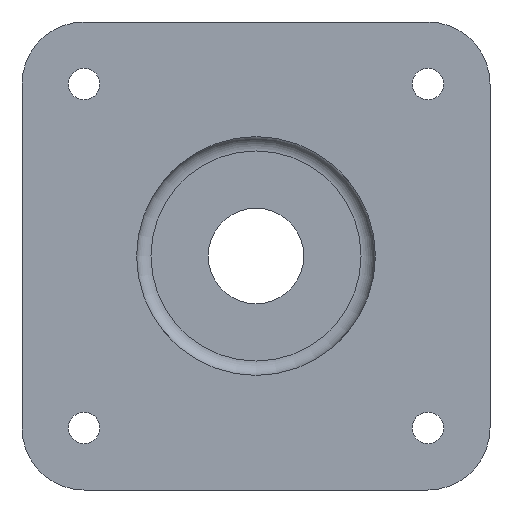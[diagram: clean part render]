
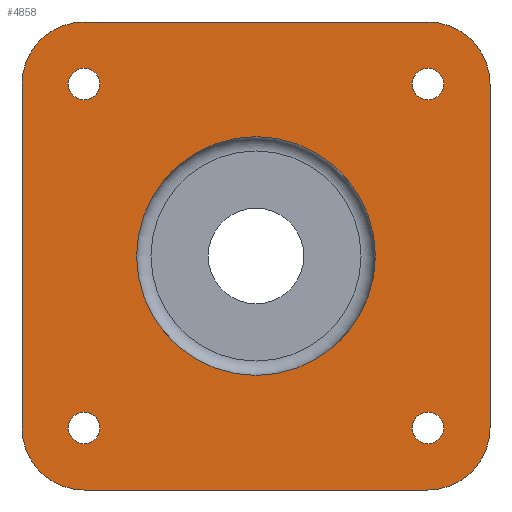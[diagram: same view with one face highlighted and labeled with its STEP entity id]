
A CAD part, front view. The second image highlights one B-rep face of the part: STEP entity #4858.
In plain terms, the highlighted planar face has unit normal (0, -1, 0).
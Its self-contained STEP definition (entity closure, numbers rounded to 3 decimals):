
#87=FACE_BOUND('',#884,.T.);
#88=FACE_BOUND('',#885,.T.);
#89=FACE_BOUND('',#886,.T.);
#90=FACE_BOUND('',#887,.T.);
#91=FACE_BOUND('',#888,.T.);
#286=PLANE('',#5271);
#561=FACE_OUTER_BOUND('',#883,.T.);
#883=EDGE_LOOP('',(#4516,#4517,#4518,#4519,#4520,#4521,#4522,#4523));
#884=EDGE_LOOP('',(#4524));
#885=EDGE_LOOP('',(#4525));
#886=EDGE_LOOP('',(#4526));
#887=EDGE_LOOP('',(#4527));
#888=EDGE_LOOP('',(#4528));
#1352=LINE('',#9833,#1677);
#1356=LINE('',#9842,#1681);
#1394=LINE('',#10151,#1719);
#1396=LINE('',#10157,#1721);
#1677=VECTOR('',#6108,10.);
#1681=VECTOR('',#6118,10.);
#1719=VECTOR('',#6356,10.);
#1721=VECTOR('',#6364,10.);
#1866=CIRCLE('',#5160,13.);
#1867=CIRCLE('',#5163,13.);
#1904=CIRCLE('',#5232,25.);
#1909=CIRCLE('',#5240,3.3);
#1912=CIRCLE('',#5246,3.3);
#1915=CIRCLE('',#5252,3.3);
#1918=CIRCLE('',#5258,3.3);
#1919=CIRCLE('',#5260,13.);
#1920=CIRCLE('',#5263,13.);
#2328=VERTEX_POINT('',#9830);
#2329=VERTEX_POINT('',#9832);
#2330=VERTEX_POINT('',#9836);
#2331=VERTEX_POINT('',#9840);
#2332=VERTEX_POINT('',#9844);
#2380=VERTEX_POINT('',#10092);
#2385=VERTEX_POINT('',#10108);
#2388=VERTEX_POINT('',#10119);
#2391=VERTEX_POINT('',#10130);
#2394=VERTEX_POINT('',#10141);
#2395=VERTEX_POINT('',#10145);
#2396=VERTEX_POINT('',#10149);
#2397=VERTEX_POINT('',#10153);
#3001=EDGE_CURVE('',#2329,#2328,#1352,.T.);
#3004=EDGE_CURVE('',#2330,#2328,#1866,.T.);
#3006=EDGE_CURVE('',#2330,#2331,#1356,.T.);
#3008=EDGE_CURVE('',#2332,#2331,#1867,.T.);
#3074=EDGE_CURVE('',#2380,#2380,#1904,.T.);
#3083=EDGE_CURVE('',#2385,#2385,#1909,.T.);
#3088=EDGE_CURVE('',#2388,#2388,#1912,.T.);
#3093=EDGE_CURVE('',#2391,#2391,#1915,.T.);
#3098=EDGE_CURVE('',#2394,#2394,#1918,.T.);
#3099=EDGE_CURVE('',#2329,#2395,#1919,.T.);
#3102=EDGE_CURVE('',#2332,#2396,#1394,.T.);
#3104=EDGE_CURVE('',#2397,#2396,#1920,.T.);
#3105=EDGE_CURVE('',#2397,#2395,#1396,.T.);
#4516=ORIENTED_EDGE('',*,*,#3099,.F.);
#4517=ORIENTED_EDGE('',*,*,#3001,.T.);
#4518=ORIENTED_EDGE('',*,*,#3004,.F.);
#4519=ORIENTED_EDGE('',*,*,#3006,.T.);
#4520=ORIENTED_EDGE('',*,*,#3008,.F.);
#4521=ORIENTED_EDGE('',*,*,#3102,.T.);
#4522=ORIENTED_EDGE('',*,*,#3104,.F.);
#4523=ORIENTED_EDGE('',*,*,#3105,.T.);
#4524=ORIENTED_EDGE('',*,*,#3083,.T.);
#4525=ORIENTED_EDGE('',*,*,#3088,.T.);
#4526=ORIENTED_EDGE('',*,*,#3093,.T.);
#4527=ORIENTED_EDGE('',*,*,#3098,.T.);
#4528=ORIENTED_EDGE('',*,*,#3074,.T.);
#4858=ADVANCED_FACE('',(#561,#87,#88,#89,#90,#91),#286,.F.);
#5160=AXIS2_PLACEMENT_3D('',#9838,#6113,#6114);
#5163=AXIS2_PLACEMENT_3D('',#9846,#6122,#6123);
#5232=AXIS2_PLACEMENT_3D('',#10093,#6284,#6285);
#5240=AXIS2_PLACEMENT_3D('',#10110,#6304,#6305);
#5246=AXIS2_PLACEMENT_3D('',#10121,#6318,#6319);
#5252=AXIS2_PLACEMENT_3D('',#10132,#6332,#6333);
#5258=AXIS2_PLACEMENT_3D('',#10143,#6346,#6347);
#5260=AXIS2_PLACEMENT_3D('',#10146,#6350,#6351);
#5263=AXIS2_PLACEMENT_3D('',#10155,#6360,#6361);
#5271=AXIS2_PLACEMENT_3D('',#10165,#6377,#6378);
#6108=DIRECTION('',(1.,0.,0.));
#6113=DIRECTION('center_axis',(0.,1.,0.));
#6114=DIRECTION('ref_axis',(0.707,0.,-0.707));
#6118=DIRECTION('',(0.,0.,1.));
#6122=DIRECTION('center_axis',(0.,1.,0.));
#6123=DIRECTION('ref_axis',(0.707,0.,0.707));
#6284=DIRECTION('center_axis',(0.,1.,0.));
#6285=DIRECTION('ref_axis',(-1.,0.,0.));
#6304=DIRECTION('center_axis',(0.,1.,0.));
#6305=DIRECTION('ref_axis',(1.,0.,0.));
#6318=DIRECTION('center_axis',(0.,1.,0.));
#6319=DIRECTION('ref_axis',(1.,0.,0.));
#6332=DIRECTION('center_axis',(0.,1.,0.));
#6333=DIRECTION('ref_axis',(1.,0.,0.));
#6346=DIRECTION('center_axis',(0.,1.,0.));
#6347=DIRECTION('ref_axis',(1.,0.,0.));
#6350=DIRECTION('center_axis',(0.,1.,0.));
#6351=DIRECTION('ref_axis',(-0.707,0.,-0.707));
#6356=DIRECTION('',(-1.,0.,0.));
#6360=DIRECTION('center_axis',(0.,1.,0.));
#6361=DIRECTION('ref_axis',(-0.707,0.,0.707));
#6364=DIRECTION('',(0.,0.,-1.));
#6377=DIRECTION('center_axis',(0.,1.,0.));
#6378=DIRECTION('ref_axis',(0.,0.,1.));
#9830=CARTESIAN_POINT('',(36.,0.,-49.));
#9832=CARTESIAN_POINT('',(-36.,0.,-49.));
#9833=CARTESIAN_POINT('',(-49.,0.,-49.));
#9836=CARTESIAN_POINT('',(49.,0.,-36.));
#9838=CARTESIAN_POINT('Origin',(36.,0.,-36.));
#9840=CARTESIAN_POINT('',(49.,0.,36.));
#9842=CARTESIAN_POINT('',(49.,0.,-49.));
#9844=CARTESIAN_POINT('',(36.,0.,49.));
#9846=CARTESIAN_POINT('Origin',(36.,0.,36.));
#10092=CARTESIAN_POINT('',(25.,0.,0.));
#10093=CARTESIAN_POINT('Origin',(0.,0.,0.));
#10108=CARTESIAN_POINT('',(-39.3,0.,-36.));
#10110=CARTESIAN_POINT('Origin',(-36.,0.,-36.));
#10119=CARTESIAN_POINT('',(32.7,0.,-36.));
#10121=CARTESIAN_POINT('Origin',(36.,0.,-36.));
#10130=CARTESIAN_POINT('',(32.7,0.,36.));
#10132=CARTESIAN_POINT('Origin',(36.,0.,36.));
#10141=CARTESIAN_POINT('',(-39.3,0.,36.));
#10143=CARTESIAN_POINT('Origin',(-36.,0.,36.));
#10145=CARTESIAN_POINT('',(-49.,0.,-36.));
#10146=CARTESIAN_POINT('Origin',(-36.,0.,-36.));
#10149=CARTESIAN_POINT('',(-36.,0.,49.));
#10151=CARTESIAN_POINT('',(49.,0.,49.));
#10153=CARTESIAN_POINT('',(-49.,0.,36.));
#10155=CARTESIAN_POINT('Origin',(-36.,0.,36.));
#10157=CARTESIAN_POINT('',(-49.,0.,49.));
#10165=CARTESIAN_POINT('Origin',(0.,0.,0.));
